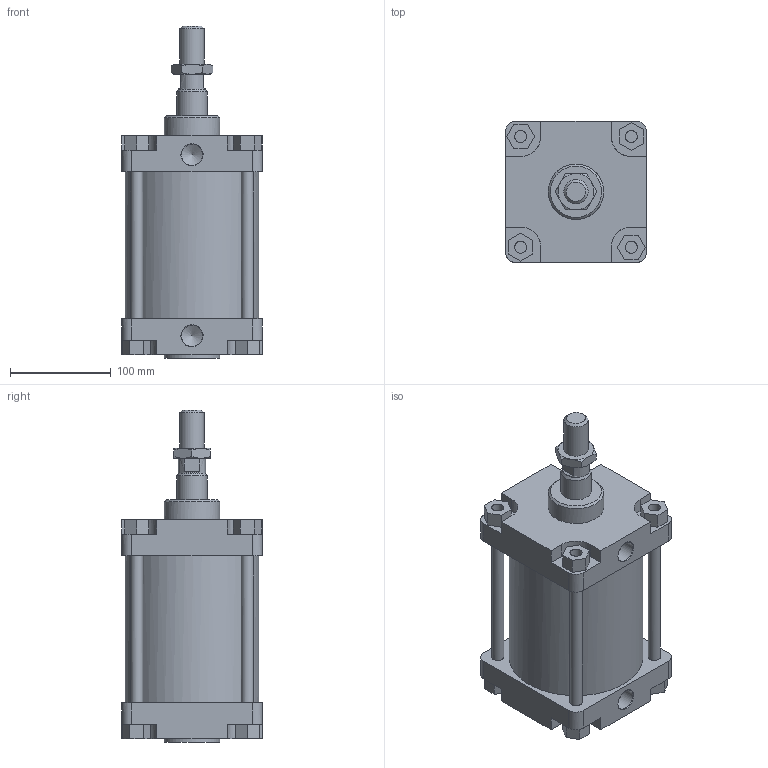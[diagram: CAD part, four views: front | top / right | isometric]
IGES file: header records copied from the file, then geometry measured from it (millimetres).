
Global section: file name: 1304_125_0050_01A; native system: Autodesk Inventor 2014; preprocessor: unknown; author: A. Manieri; date: 20161124.142331; units: millimetre
Bounding box: 140 x 140 x 330 mm (x, y, z)
Volume: 2914516.4 mm3; surface area: 372419.9 mm2
Topology: 9 solids, 9 shells, 175 faces, 440 edges, 295 vertices
Faces by surface type: bspline 175
